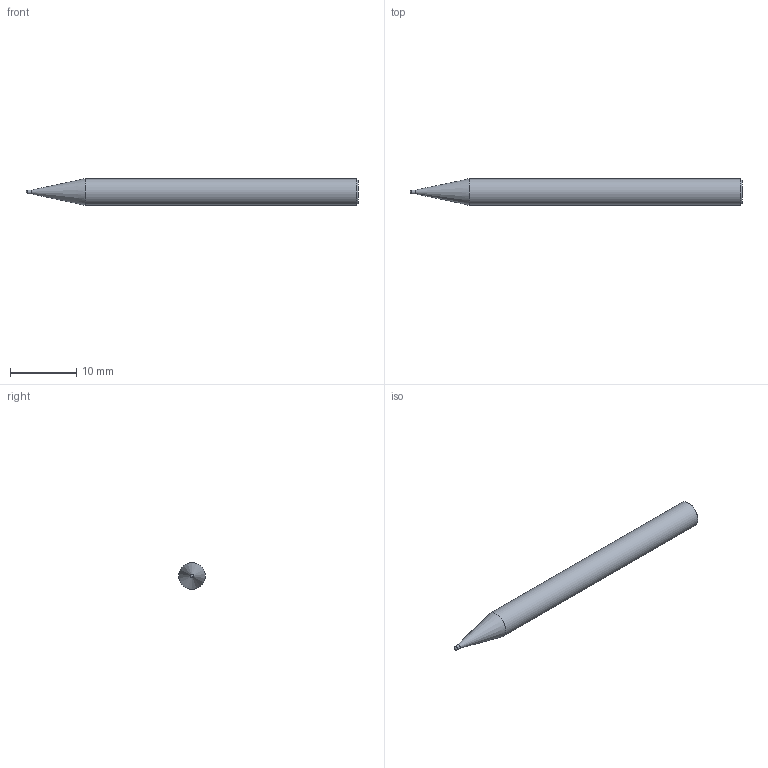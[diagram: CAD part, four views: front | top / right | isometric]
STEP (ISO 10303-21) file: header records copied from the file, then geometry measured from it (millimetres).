
FILE_DESCRIPTION(/* description */ (''),/* implementation_level */ '2;1');
FILE_NAME(/* name */ 'HSXB2006 0450.stp',/* time_stamp */ '2026-08-01T14:40:10+08:00',/* author */ (''),/* organization */ (''),/* preprocessor_version */ 'ST-DEVELOPER v16',/* originating_system */ 'SIEMENS PLM Software NX 10.0',/* authorisation */ '');
FILE_SCHEMA (('CONFIG_CONTROL_DESIGN'));
Length unit declared in the file: millimetre
Products named in the file (1): HSXB2006 0450_dxf
Bounding box: 50 x 4 x 4 mm (x, y, z)
Volume: 555.8 mm3; surface area: 588.3 mm2
Topology: 1 solids, 1 shells, 6 faces, 12 edges, 7 vertices
Faces by surface type: cylinder 2, cone 2, plane 1, sphere 1
Full cylindrical faces by diameter (mm): 0.6 x1, 4 x1
Entity records: 198 total; most frequent: DIRECTION 24, CARTESIAN_POINT 17, AXIS2_PLACEMENT_3D 12, EDGE_LOOP 10, ORIENTED_EDGE 10, FACE_BOUND 8, PERSON_AND_ORGANIZATION 7, ORGANIZATION 7
